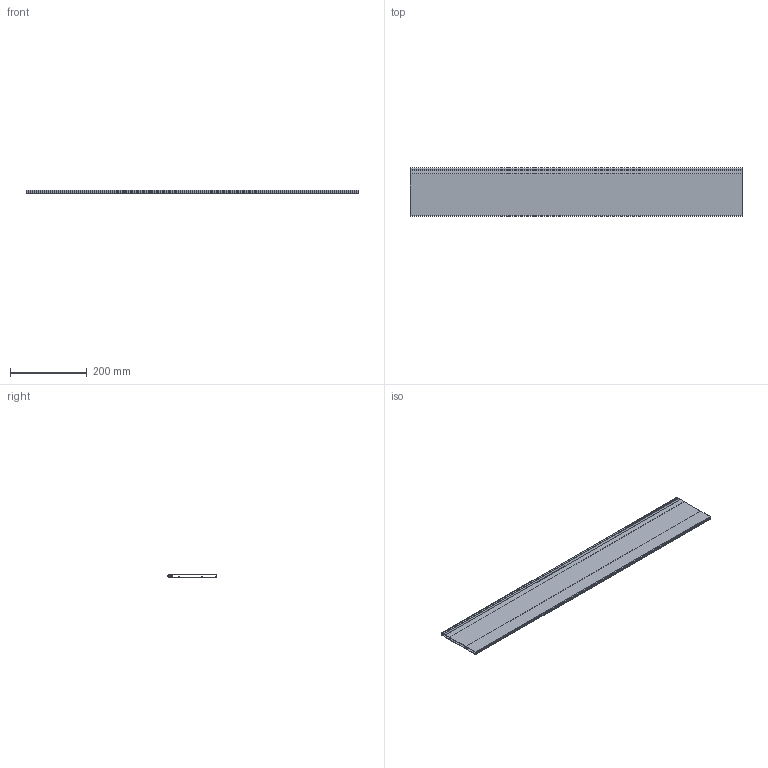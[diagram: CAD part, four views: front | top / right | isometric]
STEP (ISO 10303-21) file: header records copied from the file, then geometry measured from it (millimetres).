
FILE_DESCRIPTION (( 'STEP AP214' ), '1' );
FILE_NAME ('_Magic Optima Unterteilungsprofil DWD XP KAB 1000.step', '2010-08-17T12:26:41', ( 'grass' ), ( '' ), 'SwSTEP 2.0', 'SolidWorks 2010', '' );
FILE_SCHEMA (( 'AUTOMOTIVE_DESIGN' ));
Length unit declared in the file: millimetre
Products named in the file (1): _Magic Optima Unterteilungsprofil DWD XP  KAB 1000
Bounding box: 866 x 127.7 x 8.1 mm (x, y, z)
Volume: 303553.3 mm3; surface area: 470245.1 mm2
Topology: 1 solids, 1 shells, 39 faces, 111 edges, 74 vertices
Faces by surface type: plane 22, cylinder 17
Entity records: 1325 total; most frequent: CARTESIAN_POINT 225, DIRECTION 225, ORIENTED_EDGE 222, EDGE_CURVE 111, VECTOR 77, LINE 77, VERTEX_POINT 74, AXIS2_PLACEMENT_3D 74
